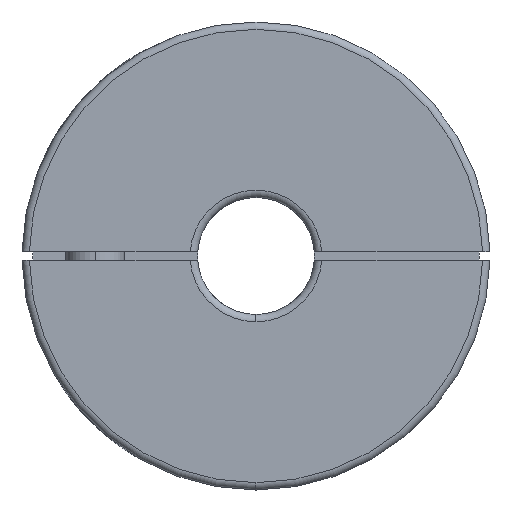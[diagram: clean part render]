
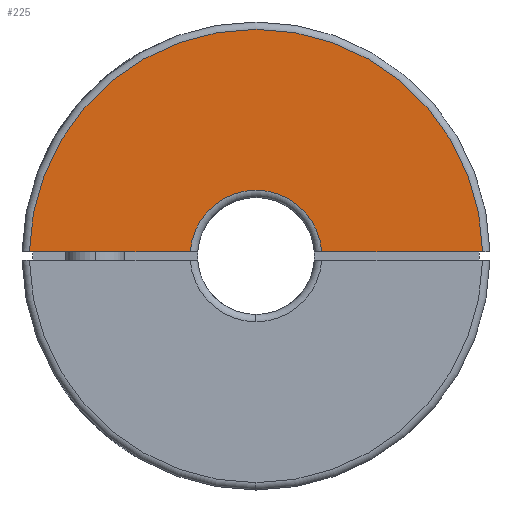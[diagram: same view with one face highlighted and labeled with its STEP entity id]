
A CAD part, left-side view. The second image highlights one B-rep face of the part: STEP entity #225.
In plain terms, the highlighted planar face has unit normal (-1, 0, 0).
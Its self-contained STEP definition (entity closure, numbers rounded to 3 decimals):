
#100 = EDGE_CURVE ( 'NONE', #236, #149, #519, .T. ) ;
#101 = EDGE_LOOP ( 'NONE', ( #102, #130, #132, #133 ) ) ;
#102 = ORIENTED_EDGE ( 'NONE', *, *, #100, .F. ) ;
#127 = EDGE_CURVE ( 'NONE', #136, #149, #600, .T. ) ;
#130 = ORIENTED_EDGE ( 'NONE', *, *, #131, .T. ) ;
#131 = EDGE_CURVE ( 'NONE', #236, #137, #585, .T. ) ;
#132 = ORIENTED_EDGE ( 'NONE', *, *, #135, .F. ) ;
#133 = ORIENTED_EDGE ( 'NONE', *, *, #127, .T. ) ;
#135 = EDGE_CURVE ( 'NONE', #136, #137, #575, .T. ) ;
#136 = VERTEX_POINT ( 'NONE', #571 ) ;
#137 = VERTEX_POINT ( 'NONE', #570 ) ;
#149 = VERTEX_POINT ( 'NONE', #629 ) ;
#225 = ADVANCED_FACE ( 'NONE', ( #867 ), #765, .F. ) ;
#236 = VERTEX_POINT ( 'NONE', #793 ) ;
#516 = DIRECTION ( 'NONE',  ( 0., 1., 0. ) ) ;
#517 = VECTOR ( 'NONE', #516, 1000. ) ;
#518 = CARTESIAN_POINT ( 'NONE',  ( -21., 16., 0.3 ) ) ;
#519 = LINE ( 'NONE', #518, #517 ) ;
#570 = CARTESIAN_POINT ( 'NONE',  ( -21., -4.49, 0.3 ) ) ;
#571 = CARTESIAN_POINT ( 'NONE',  ( -21., -15.497, 0.3 ) ) ;
#572 = DIRECTION ( 'NONE',  ( 0., 1., 0. ) ) ;
#573 = VECTOR ( 'NONE', #572, 1000. ) ;
#574 = CARTESIAN_POINT ( 'NONE',  ( -21., 16., 0.3 ) ) ;
#575 = LINE ( 'NONE', #574, #573 ) ;
#581 = DIRECTION ( 'NONE',  ( 0., 0., -1. ) ) ;
#582 = DIRECTION ( 'NONE',  ( 1., 0., 0. ) ) ;
#583 = CARTESIAN_POINT ( 'NONE',  ( -21., 0., 0. ) ) ;
#584 = AXIS2_PLACEMENT_3D ( 'NONE', #583, #582, #581 ) ;
#585 = CIRCLE ( 'NONE', #584, 4.5 ) ;
#596 = DIRECTION ( 'NONE',  ( 0., 0., -1. ) ) ;
#597 = DIRECTION ( 'NONE',  ( -1., 0., 0. ) ) ;
#598 = CARTESIAN_POINT ( 'NONE',  ( -21., 0., 0. ) ) ;
#599 = AXIS2_PLACEMENT_3D ( 'NONE', #598, #597, #596 ) ;
#600 = CIRCLE ( 'NONE', #599, 15.5 ) ;
#629 = CARTESIAN_POINT ( 'NONE',  ( -21., 15.497, 0.3 ) ) ;
#761 = DIRECTION ( 'NONE',  ( 0., 0., -1. ) ) ;
#762 = DIRECTION ( 'NONE',  ( 1., 0., 0. ) ) ;
#763 = CARTESIAN_POINT ( 'NONE',  ( -21., 16., 0. ) ) ;
#764 = AXIS2_PLACEMENT_3D ( 'NONE', #763, #762, #761 ) ;
#765 = PLANE ( 'NONE',  #764 ) ;
#793 = CARTESIAN_POINT ( 'NONE',  ( -21., 4.49, 0.3 ) ) ;
#867 = FACE_OUTER_BOUND ( 'NONE', #101, .T. ) ;
